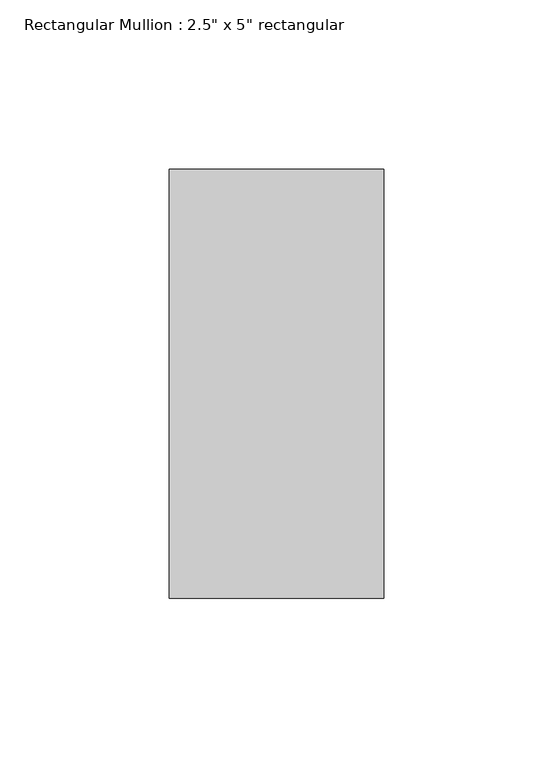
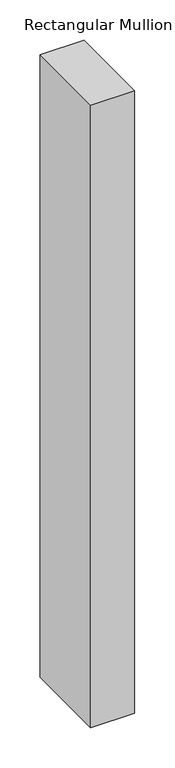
"""IFC4 building model written with IfcOpenShell, lengths in millimetres: member geometry."""

from ifc_helpers import new_model, si_unit, frame, origin, place, context, project, spatial, polyline, outline, extrude, source, transform, mapped, element, save


def member_d74167de(model_context):
    return source(origin(), model_context, "Body", "SweptSolid", [
        extrude(outline(polyline([(31.75, 63.5), (31.75, -63.5), (-31.75, -63.5), (-31.75, 63.5), (31.75, 63.5)])), frame((0.0, 0.0, -948.8714286), z_axis=(0.0, 0.0, 1.0), x_axis=(1.0, 0.0, 0.0)), (0.0, 0.0, 1.0), 948.8714286),
    ])


if __name__ == "__main__":
    model = new_model("IFC4")
    model_context = context("Model", 3, world=origin())
    ifc_project = project(units=[si_unit("LENGTHUNIT", "METRE", prefix="MILLI")], contexts=[model_context])
    site = spatial("IfcSite", under=ifc_project)
    building = spatial("IfcBuilding", under=site)
    placement = place(None, origin())
    member_shape = member_d74167de(model_context)
    element("IfcMember", 1, ObjectType="Rectangular Mullion : 2.5\" x 5\" rectangular", at=placement, inside=building, context=model_context, shape_type="MappedRepresentation", body=[
        mapped(member_shape, transform((0.0, 0.0, 0.0), x_axis=(1.0, 0.0, 0.0), y_axis=(0.0, 1.0, 0.0), z_axis=(0.0, 0.0, 1.0))),
    ])
    save(model, "model.ifc")
